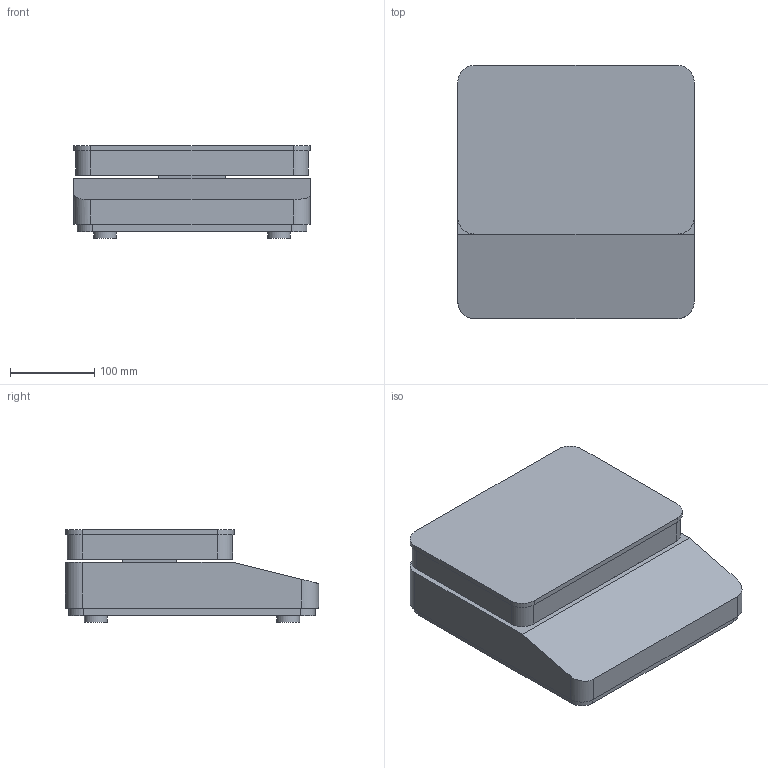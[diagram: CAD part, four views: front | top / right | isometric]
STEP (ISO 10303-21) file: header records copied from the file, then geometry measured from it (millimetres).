
FILE_DESCRIPTION(('Open CASCADE Model'),'2;1');
FILE_NAME('Open CASCADE Shape Model','2026-09-07T11:12:45',('Author'),( 'Open CASCADE'),'Open CASCADE STEP processor 7.9','Open CASCADE 7.9' ,'Unknown');
FILE_SCHEMA(('AUTOMOTIVE_DESIGN { 1 0 10303 214 1 1 1 1 }'));
Length unit declared in the file: millimetre
Products named in the file (9): MINU_concept_01_FORM_ONLY; base; guscio; piatto; REFERENCE_ONLY_reserved_cell_volume; REFERENCE_ONLY_foot_1; REFERENCE_ONLY_foot_2; REFERENCE_ONLY_foot_3; REFERENCE_ONLY_foot_4
Assembly tree (8 placements, depth 2):
  MINU_concept_01_FORM_ONLY
    base
    guscio
    piatto
    REFERENCE_ONLY_reserved_cell_volume
    REFERENCE_ONLY_foot_1
    REFERENCE_ONLY_foot_2
    REFERENCE_ONLY_foot_3
    REFERENCE_ONLY_foot_4
Bounding box: 280 x 300 x 110 mm (x, y, z)
Volume: 1900976.6 mm3; surface area: 762948.5 mm2
Topology: 8 solids, 8 shells, 379 faces, 1077 edges, 718 vertices
Faces by surface type: plane 342, cylinder 37
Full cylindrical faces by diameter (mm): 24 x1, 27 x4
Entity records: 25819 total; most frequent: CARTESIAN_POINT 5145, DIRECTION 3411, LINE 2435, VECTOR 2435, ORIENTED_EDGE 2154, PCURVE 2154, DEFINITIONAL_REPRESENTATION 2154, EDGE_CURVE 1077
